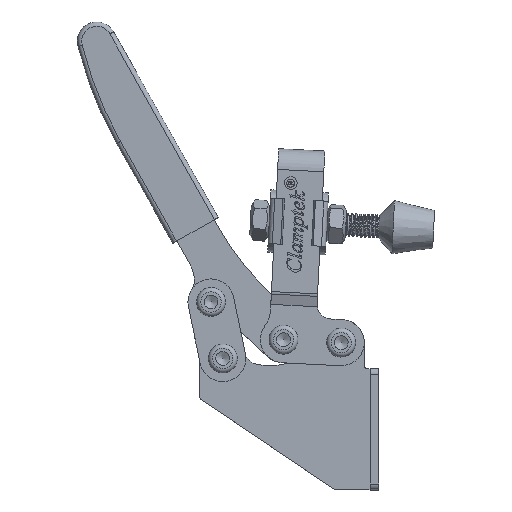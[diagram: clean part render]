
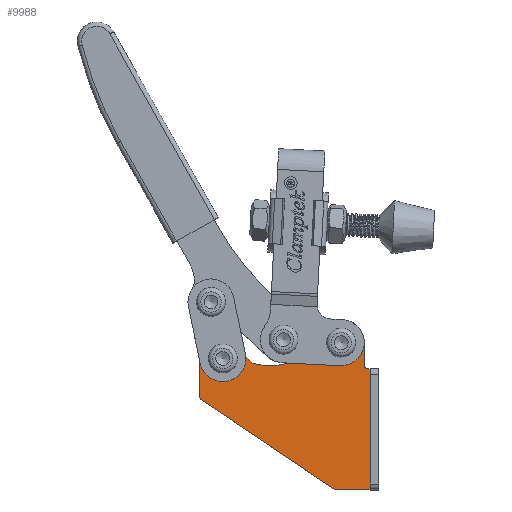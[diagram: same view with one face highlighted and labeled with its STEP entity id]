
A CAD part, top view. The second image highlights one B-rep face of the part: STEP entity #9988.
In plain terms, the highlighted planar face has unit normal (0, 0, 1).
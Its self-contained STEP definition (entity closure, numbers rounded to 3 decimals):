
#316=FACE_BOUND('',#1641,.T.);
#317=FACE_BOUND('',#1642,.T.);
#554=PLANE('',#10695);
#1066=FACE_OUTER_BOUND('',#1640,.T.);
#1640=EDGE_LOOP('',(#8999,#9000,#9001,#9002,#9003,#9004,#9005,#9006,#9007,
#9008,#9009,#9010,#9011));
#1641=EDGE_LOOP('',(#9012,#9013));
#1642=EDGE_LOOP('',(#9014,#9015));
#1885=CIRCLE('',#10688,3.2);
#1886=CIRCLE('',#10689,3.2);
#1889=CIRCLE('',#10693,3.2);
#1890=CIRCLE('',#10694,3.2);
#1891=CIRCLE('',#10696,1.);
#1892=CIRCLE('',#10697,8.);
#1893=CIRCLE('',#10698,19.);
#1894=CIRCLE('',#10699,5.);
#1895=CIRCLE('',#10700,8.);
#1896=CIRCLE('',#10701,2.);
#1897=CIRCLE('',#10702,2.);
#3105=LINE('',#39551,#3902);
#3106=LINE('',#39553,#3903);
#3107=LINE('',#39557,#3904);
#3108=LINE('',#39567,#3905);
#3109=LINE('',#39571,#3906);
#3110=LINE('',#39574,#3907);
#3902=VECTOR('',#12489,1000.);
#3903=VECTOR('',#12490,1000.);
#3904=VECTOR('',#12493,1000.);
#3905=VECTOR('',#12502,1000.);
#3906=VECTOR('',#12505,1000.);
#3907=VECTOR('',#12508,1000.);
#4843=VERTEX_POINT('',#39533);
#4844=VERTEX_POINT('',#39535);
#4847=VERTEX_POINT('',#39543);
#4848=VERTEX_POINT('',#39545);
#4849=VERTEX_POINT('',#39549);
#4850=VERTEX_POINT('',#39550);
#4851=VERTEX_POINT('',#39552);
#4852=VERTEX_POINT('',#39554);
#4853=VERTEX_POINT('',#39556);
#4854=VERTEX_POINT('',#39558);
#4855=VERTEX_POINT('',#39560);
#4856=VERTEX_POINT('',#39562);
#4857=VERTEX_POINT('',#39564);
#4858=VERTEX_POINT('',#39566);
#4859=VERTEX_POINT('',#39568);
#4860=VERTEX_POINT('',#39570);
#4861=VERTEX_POINT('',#39572);
#6255=EDGE_CURVE('',#4843,#4844,#1885,.T.);
#6256=EDGE_CURVE('',#4844,#4843,#1886,.T.);
#6260=EDGE_CURVE('',#4847,#4848,#1889,.T.);
#6261=EDGE_CURVE('',#4848,#4847,#1890,.T.);
#6262=EDGE_CURVE('',#4849,#4850,#3105,.T.);
#6263=EDGE_CURVE('',#4850,#4851,#3106,.T.);
#6264=EDGE_CURVE('',#4851,#4852,#1891,.T.);
#6265=EDGE_CURVE('',#4852,#4853,#3107,.T.);
#6266=EDGE_CURVE('',#4853,#4854,#1892,.T.);
#6267=EDGE_CURVE('',#4854,#4855,#1893,.T.);
#6268=EDGE_CURVE('',#4855,#4856,#1894,.T.);
#6269=EDGE_CURVE('',#4856,#4857,#1895,.T.);
#6270=EDGE_CURVE('',#4857,#4858,#3108,.T.);
#6271=EDGE_CURVE('',#4858,#4859,#1896,.T.);
#6272=EDGE_CURVE('',#4859,#4860,#3109,.T.);
#6273=EDGE_CURVE('',#4860,#4861,#1897,.T.);
#6274=EDGE_CURVE('',#4861,#4849,#3110,.T.);
#8999=ORIENTED_EDGE('',*,*,#6262,.T.);
#9000=ORIENTED_EDGE('',*,*,#6263,.T.);
#9001=ORIENTED_EDGE('',*,*,#6264,.T.);
#9002=ORIENTED_EDGE('',*,*,#6265,.T.);
#9003=ORIENTED_EDGE('',*,*,#6266,.T.);
#9004=ORIENTED_EDGE('',*,*,#6267,.T.);
#9005=ORIENTED_EDGE('',*,*,#6268,.T.);
#9006=ORIENTED_EDGE('',*,*,#6269,.T.);
#9007=ORIENTED_EDGE('',*,*,#6270,.T.);
#9008=ORIENTED_EDGE('',*,*,#6271,.T.);
#9009=ORIENTED_EDGE('',*,*,#6272,.T.);
#9010=ORIENTED_EDGE('',*,*,#6273,.T.);
#9011=ORIENTED_EDGE('',*,*,#6274,.T.);
#9012=ORIENTED_EDGE('',*,*,#6256,.F.);
#9013=ORIENTED_EDGE('',*,*,#6255,.F.);
#9014=ORIENTED_EDGE('',*,*,#6261,.F.);
#9015=ORIENTED_EDGE('',*,*,#6260,.F.);
#9988=ADVANCED_FACE('',(#1066,#316,#317),#554,.F.);
#10688=AXIS2_PLACEMENT_3D('',#39536,#12472,#12473);
#10689=AXIS2_PLACEMENT_3D('',#39537,#12474,#12475);
#10693=AXIS2_PLACEMENT_3D('',#39546,#12483,#12484);
#10694=AXIS2_PLACEMENT_3D('',#39547,#12485,#12486);
#10695=AXIS2_PLACEMENT_3D('',#39548,#12487,#12488);
#10696=AXIS2_PLACEMENT_3D('',#39555,#12491,#12492);
#10697=AXIS2_PLACEMENT_3D('',#39559,#12494,#12495);
#10698=AXIS2_PLACEMENT_3D('',#39561,#12496,#12497);
#10699=AXIS2_PLACEMENT_3D('',#39563,#12498,#12499);
#10700=AXIS2_PLACEMENT_3D('',#39565,#12500,#12501);
#10701=AXIS2_PLACEMENT_3D('',#39569,#12503,#12504);
#10702=AXIS2_PLACEMENT_3D('',#39573,#12506,#12507);
#12472=DIRECTION('center_axis',(0.,0.,1.));
#12473=DIRECTION('ref_axis',(1.,0.,0.));
#12474=DIRECTION('center_axis',(0.,0.,1.));
#12475=DIRECTION('ref_axis',(1.,0.,0.));
#12483=DIRECTION('center_axis',(0.,0.,1.));
#12484=DIRECTION('ref_axis',(1.,0.,0.));
#12485=DIRECTION('center_axis',(0.,0.,1.));
#12486=DIRECTION('ref_axis',(1.,0.,0.));
#12487=DIRECTION('center_axis',(0.,0.,-1.));
#12488=DIRECTION('ref_axis',(1.,0.,0.));
#12489=DIRECTION('',(0.,1.,0.));
#12490=DIRECTION('',(-1.,0.,0.));
#12491=DIRECTION('center_axis',(0.,0.,-1.));
#12492=DIRECTION('ref_axis',(1.,0.,0.));
#12493=DIRECTION('',(0.,1.,0.));
#12494=DIRECTION('center_axis',(0.,0.,1.));
#12495=DIRECTION('ref_axis',(1.,0.,0.));
#12496=DIRECTION('center_axis',(0.,0.,-1.));
#12497=DIRECTION('ref_axis',(1.,0.,0.));
#12498=DIRECTION('center_axis',(0.,0.,-1.));
#12499=DIRECTION('ref_axis',(1.,0.,0.));
#12500=DIRECTION('center_axis',(0.,0.,1.));
#12501=DIRECTION('ref_axis',(1.,0.,0.));
#12502=DIRECTION('',(0.,-1.,0.));
#12503=DIRECTION('center_axis',(0.,0.,1.));
#12504=DIRECTION('ref_axis',(1.,0.,0.));
#12505=DIRECTION('',(0.83,-0.558,0.));
#12506=DIRECTION('center_axis',(0.,0.,1.));
#12507=DIRECTION('ref_axis',(1.,0.,0.));
#12508=DIRECTION('',(1.,0.,0.));
#39533=CARTESIAN_POINT('',(-9.8,51.,6.));
#39535=CARTESIAN_POINT('',(-16.2,51.,6.));
#39536=CARTESIAN_POINT('Origin',(-13.,51.,6.));
#39537=CARTESIAN_POINT('Origin',(-13.,51.,6.));
#39543=CARTESIAN_POINT('',(-50.8,45.5,6.));
#39545=CARTESIAN_POINT('',(-57.2,45.5,6.));
#39546=CARTESIAN_POINT('Origin',(-54.,45.5,6.));
#39547=CARTESIAN_POINT('Origin',(-54.,45.5,6.));
#39548=CARTESIAN_POINT('Origin',(-14.39,2.,6.));
#39549=CARTESIAN_POINT('',(-3.,0.,6.));
#39550=CARTESIAN_POINT('',(-3.,42.,6.));
#39551=CARTESIAN_POINT('',(-3.,2.,6.));
#39552=CARTESIAN_POINT('',(-4.,42.,6.));
#39553=CARTESIAN_POINT('',(-4.,42.,6.));
#39554=CARTESIAN_POINT('',(-5.,43.,6.));
#39555=CARTESIAN_POINT('Origin',(-4.,43.,6.));
#39556=CARTESIAN_POINT('',(-5.,51.,6.));
#39557=CARTESIAN_POINT('',(-5.,51.,6.));
#39558=CARTESIAN_POINT('',(-20.308,54.255,6.));
#39559=CARTESIAN_POINT('Origin',(-13.,51.,6.));
#39560=CARTESIAN_POINT('',(-42.632,43.611,6.));
#39561=CARTESIAN_POINT('Origin',(-37.678,61.954,6.));
#39562=CARTESIAN_POINT('',(-46.207,47.31,6.));
#39563=CARTESIAN_POINT('Origin',(-41.337,48.441,6.));
#39564=CARTESIAN_POINT('',(-62.,45.5,6.));
#39565=CARTESIAN_POINT('Origin',(-54.,45.5,6.));
#39566=CARTESIAN_POINT('',(-62.,32.665,6.));
#39567=CARTESIAN_POINT('',(-62.,45.5,6.));
#39568=CARTESIAN_POINT('',(-61.116,31.006,6.));
#39569=CARTESIAN_POINT('Origin',(-60.,32.665,6.));
#39570=CARTESIAN_POINT('',(-15.506,0.34,6.));
#39571=CARTESIAN_POINT('',(-15.506,0.34,6.));
#39572=CARTESIAN_POINT('',(-14.39,0.,6.));
#39573=CARTESIAN_POINT('Origin',(-14.39,2.,6.));
#39574=CARTESIAN_POINT('',(0.,0.,6.));
